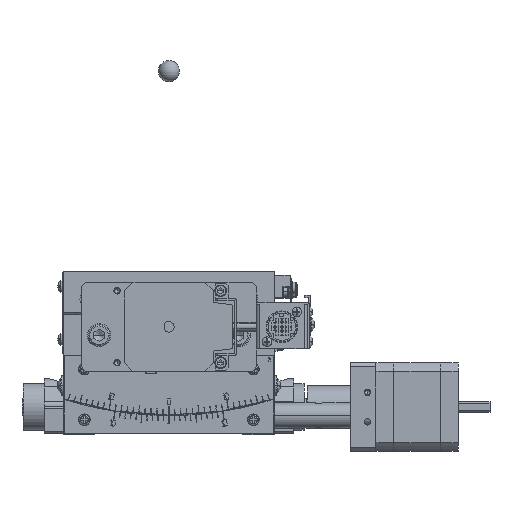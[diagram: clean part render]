
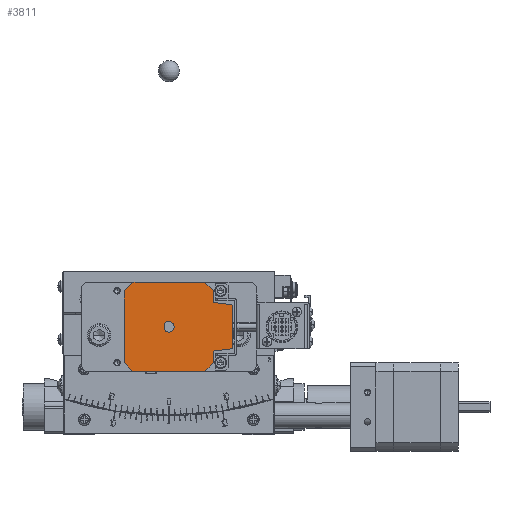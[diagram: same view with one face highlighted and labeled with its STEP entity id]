
A CAD part, front view. The second image highlights one B-rep face of the part: STEP entity #3811.
In plain terms, the highlighted planar face has unit normal (0, -1, 0).
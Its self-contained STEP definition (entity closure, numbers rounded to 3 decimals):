
#3811=ADVANCED_FACE('',(#42265,#42266),#42264,.F.);
#42264=PLANE('',#82447);
#42265=FACE_OUTER_BOUND('',#82448,.T.);
#42266=FACE_BOUND('',#82449,.T.);
#82444=CARTESIAN_POINT('',(35.1,-137.,76.2));
#82445=DIRECTION('',(0.,1.,0.));
#82446=DIRECTION('',(0.,0.,-1.));
#82447=AXIS2_PLACEMENT_3D('',#82444,#82445,#82446);
#82448=EDGE_LOOP('',(#113298,#113299,#113300,#113301,#113302,#113303,#113304,#113305,#113306,#113307,#113308,#113309,#113310,#113311));
#82449=EDGE_LOOP('',(#113312,#113313));
#113298=ORIENTED_EDGE('',*,*,#131997,.F.);
#113299=ORIENTED_EDGE('',*,*,#131930,.F.);
#113300=ORIENTED_EDGE('',*,*,#132066,.F.);
#113301=ORIENTED_EDGE('',*,*,#132016,.F.);
#113302=ORIENTED_EDGE('',*,*,#132018,.F.);
#113303=ORIENTED_EDGE('',*,*,#132019,.F.);
#113304=ORIENTED_EDGE('',*,*,#131960,.F.);
#113305=ORIENTED_EDGE('',*,*,#131954,.F.);
#113306=ORIENTED_EDGE('',*,*,#131948,.F.);
#113307=ORIENTED_EDGE('',*,*,#131940,.F.);
#113308=ORIENTED_EDGE('',*,*,#131934,.F.);
#113309=ORIENTED_EDGE('',*,*,#132013,.F.);
#113310=ORIENTED_EDGE('',*,*,#132007,.F.);
#113311=ORIENTED_EDGE('',*,*,#132004,.F.);
#113312=ORIENTED_EDGE('',*,*,#132065,.T.);
#113313=ORIENTED_EDGE('',*,*,#132067,.F.);
#131930=EDGE_CURVE('',#199658,#199643,#199665,.T.);
#131934=EDGE_CURVE('',#199686,#199671,#199693,.T.);
#131940=EDGE_CURVE('',#199671,#199719,#199733,.T.);
#131948=EDGE_CURVE('',#199719,#199773,#199787,.T.);
#131954=EDGE_CURVE('',#199773,#199813,#199827,.T.);
#131960=EDGE_CURVE('',#199813,#199853,#199867,.T.);
#131997=EDGE_CURVE('',#199643,#200098,#200112,.T.);
#132004=EDGE_CURVE('',#200098,#200144,#200158,.T.);
#132007=EDGE_CURVE('',#200144,#200164,#200178,.T.);
#132013=EDGE_CURVE('',#200164,#199686,#200217,.T.);
#132016=EDGE_CURVE('',#200230,#200223,#200237,.T.);
#132018=EDGE_CURVE('',#200243,#200230,#200250,.T.);
#132019=EDGE_CURVE('',#199853,#200243,#200256,.T.);
#132065=EDGE_CURVE('',#200546,#200560,#200567,.T.);
#132066=EDGE_CURVE('',#200223,#199658,#200573,.T.);
#132067=EDGE_CURVE('',#200546,#200560,#200579,.T.);
#199643=VERTEX_POINT('',#269290);
#199658=VERTEX_POINT('',#269299);
#199665=LINE('',#269303,#269304);
#199671=VERTEX_POINT('',#269306);
#199686=VERTEX_POINT('',#269315);
#199693=LINE('',#269319,#269320);
#199719=VERTEX_POINT('',#269333);
#199733=CIRCLE('',#269345,0.5);
#199773=VERTEX_POINT('',#269365);
#199787=LINE('',#269373,#269374);
#199813=VERTEX_POINT('',#269389);
#199827=CIRCLE('',#269401,0.5);
#199853=VERTEX_POINT('',#269413);
#199867=LINE('',#269421,#269422);
#200098=VERTEX_POINT('',#269553);
#200112=CIRCLE('',#269565,27.);
#200144=VERTEX_POINT('',#269581);
#200158=LINE('',#269589,#269590);
#200164=VERTEX_POINT('',#269592);
#200178=CIRCLE('',#269604,27.);
#200217=LINE('',#269625,#269626);
#200223=VERTEX_POINT('',#269628);
#200230=VERTEX_POINT('',#269632);
#200237=LINE('',#269636,#269637);
#200243=VERTEX_POINT('',#269639);
#200250=CIRCLE('',#269646,27.);
#200256=LINE('',#269647,#269648);
#200546=VERTEX_POINT('',#269821);
#200560=VERTEX_POINT('',#269830);
#200567=CIRCLE('',#269837,2.5);
#200573=CIRCLE('',#269841,27.);
#200579=LINE('',#269842,#269843);
#269290=CARTESIAN_POINT('',(-21.,-137.,67.971));
#269299=CARTESIAN_POINT('',(-21.,-137.,34.029));
#269303=CARTESIAN_POINT('',(-21.,-137.,34.029));
#269304=VECTOR('',#269305,33.941);
#269305=DIRECTION('',(0.,0.,1.));
#269306=CARTESIAN_POINT('',(29.561,-137.,61.449));
#269315=CARTESIAN_POINT('',(21.,-137.,62.5));
#269319=CARTESIAN_POINT('',(21.,-137.,62.5));
#269320=VECTOR('',#269321,8.625);
#269321=DIRECTION('',(0.993,0.,-0.122));
#269333=CARTESIAN_POINT('',(30.,-137.,60.953));
#269342=CARTESIAN_POINT('',(29.5,-137.,60.953));
#269343=DIRECTION('',(0.,1.,0.));
#269344=DIRECTION('',(-0.122,0.,-0.993));
#269345=AXIS2_PLACEMENT_3D('',#269342,#269343,#269344);
#269365=CARTESIAN_POINT('',(30.,-137.,41.047));
#269373=CARTESIAN_POINT('',(30.,-137.,60.953));
#269374=VECTOR('',#269375,19.905);
#269375=DIRECTION('',(0.,0.,-1.));
#269389=CARTESIAN_POINT('',(29.561,-137.,40.551));
#269398=CARTESIAN_POINT('',(29.5,-137.,41.047));
#269399=DIRECTION('',(0.,1.,0.));
#269400=DIRECTION('',(-1.,0.,0.));
#269401=AXIS2_PLACEMENT_3D('',#269398,#269399,#269400);
#269413=CARTESIAN_POINT('',(21.,-137.,39.5));
#269421=CARTESIAN_POINT('',(29.561,-137.,40.551));
#269422=VECTOR('',#269423,8.625);
#269423=DIRECTION('',(-0.993,0.,-0.122));
#269553=CARTESIAN_POINT('',(-16.971,-137.,72.));
#269562=CARTESIAN_POINT('',(0.,-137.,51.));
#269563=DIRECTION('',(0.,1.,0.));
#269564=DIRECTION('',(0.778,0.,-0.629));
#269565=AXIS2_PLACEMENT_3D('',#269562,#269563,#269564);
#269581=CARTESIAN_POINT('',(16.971,-137.,72.));
#269589=CARTESIAN_POINT('',(-16.971,-137.,72.));
#269590=VECTOR('',#269591,33.941);
#269591=DIRECTION('',(1.,0.,0.));
#269592=CARTESIAN_POINT('',(21.,-137.,67.971));
#269601=CARTESIAN_POINT('',(0.,-137.,51.));
#269602=DIRECTION('',(0.,1.,0.));
#269603=DIRECTION('',(-0.629,0.,-0.778));
#269604=AXIS2_PLACEMENT_3D('',#269601,#269602,#269603);
#269625=CARTESIAN_POINT('',(21.,-137.,67.971));
#269626=VECTOR('',#269627,5.471);
#269627=DIRECTION('',(0.,0.,-1.));
#269628=CARTESIAN_POINT('',(-16.971,-137.,30.));
#269632=CARTESIAN_POINT('',(16.971,-137.,30.));
#269636=CARTESIAN_POINT('',(16.971,-137.,30.));
#269637=VECTOR('',#269638,33.941);
#269638=DIRECTION('',(-1.,0.,0.));
#269639=CARTESIAN_POINT('',(21.,-137.,34.029));
#269643=CARTESIAN_POINT('',(0.,-137.,51.));
#269644=DIRECTION('',(0.,1.,0.));
#269645=DIRECTION('',(-0.778,0.,0.629));
#269646=AXIS2_PLACEMENT_3D('',#269643,#269644,#269645);
#269647=CARTESIAN_POINT('',(21.,-137.,39.5));
#269648=VECTOR('',#269649,5.471);
#269649=DIRECTION('',(0.,0.,-1.));
#269821=CARTESIAN_POINT('',(-2.,-137.,52.5));
#269830=CARTESIAN_POINT('',(-2.,-137.,49.5));
#269834=CARTESIAN_POINT('',(0.,-137.,51.));
#269835=DIRECTION('',(0.,1.,0.));
#269836=DIRECTION('',(-0.8,0.,0.6));
#269837=AXIS2_PLACEMENT_3D('',#269834,#269835,#269836);
#269838=CARTESIAN_POINT('',(0.,-137.,51.));
#269839=DIRECTION('',(0.,1.,0.));
#269840=DIRECTION('',(0.629,0.,0.778));
#269841=AXIS2_PLACEMENT_3D('',#269838,#269839,#269840);
#269842=CARTESIAN_POINT('',(-2.,-137.,52.5));
#269843=VECTOR('',#269844,3.);
#269844=DIRECTION('',(0.,0.,-1.));
